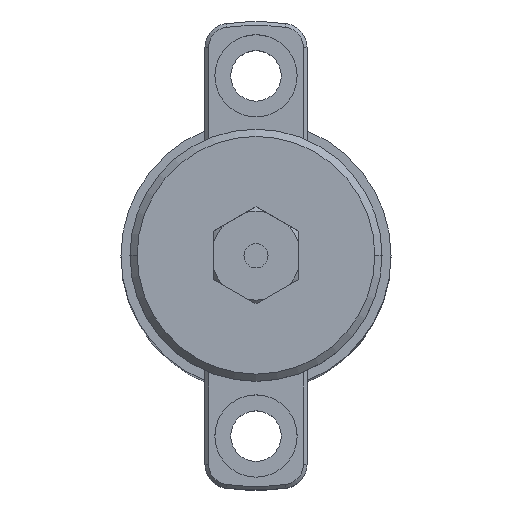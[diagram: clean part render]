
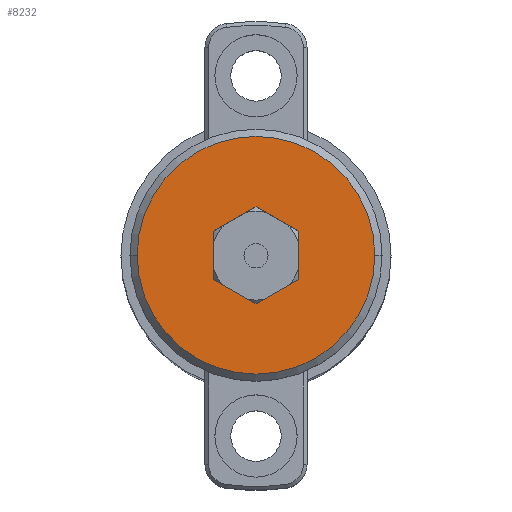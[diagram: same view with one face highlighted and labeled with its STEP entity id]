
A CAD part, top view. The second image highlights one B-rep face of the part: STEP entity #8232.
In plain terms, the highlighted planar face has unit normal (0, 0, 1).
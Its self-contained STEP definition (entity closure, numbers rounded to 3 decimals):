
#186 = DIRECTION ( 'NONE',  ( 1., 0., 0. ) ) ;
#319 = CARTESIAN_POINT ( 'NONE',  ( -7., 4.041, 0. ) ) ;
#331 = CARTESIAN_POINT ( 'NONE',  ( -7., -4.041, 0. ) ) ;
#422 = AXIS2_PLACEMENT_3D ( 'NONE', #14855, #7517, #186 ) ;
#543 = VECTOR ( 'NONE', #7697, 1000. ) ;
#816 = DIRECTION ( 'NONE',  ( 0.866, -0.5, 0. ) ) ;
#894 = ORIENTED_EDGE ( 'NONE', *, *, #8617, .F. ) ;
#948 = VERTEX_POINT ( 'NONE', #14293 ) ;
#1150 = AXIS2_PLACEMENT_3D ( 'NONE', #1497, #10088, #2714 ) ;
#1197 = CARTESIAN_POINT ( 'NONE',  ( 0., 8.083, 0. ) ) ;
#1497 = CARTESIAN_POINT ( 'NONE',  ( 0., 0., 0. ) ) ;
#1517 = VERTEX_POINT ( 'NONE', #15447 ) ;
#1531 = DIRECTION ( 'NONE',  ( 0., -1., 0. ) ) ;
#1757 = VECTOR ( 'NONE', #3609, 1000. ) ;
#2142 = DIRECTION ( 'NONE',  ( -1., 0., 0. ) ) ;
#2345 = DIRECTION ( 'NONE',  ( 0.866, 0.5, 0. ) ) ;
#2494 = EDGE_CURVE ( 'NONE', #2709, #5618, #11169, .T. ) ;
#2613 = EDGE_CURVE ( 'NONE', #4873, #8623, #13665, .T. ) ;
#2709 = VERTEX_POINT ( 'NONE', #13808 ) ;
#2714 = DIRECTION ( 'NONE',  ( 1., 0., 0. ) ) ;
#3179 = ORIENTED_EDGE ( 'NONE', *, *, #3445, .F. ) ;
#3316 = CARTESIAN_POINT ( 'NONE',  ( -19.8, 0., 0. ) ) ;
#3445 = EDGE_CURVE ( 'NONE', #9259, #948, #12086, .T. ) ;
#3609 = DIRECTION ( 'NONE',  ( -0.866, -0.5, 0. ) ) ;
#3768 = CARTESIAN_POINT ( 'NONE',  ( 7., -4.041, 0. ) ) ;
#3868 = VECTOR ( 'NONE', #11230, 1000. ) ;
#4251 = VERTEX_POINT ( 'NONE', #3316 ) ;
#4772 = ORIENTED_EDGE ( 'NONE', *, *, #11653, .T. ) ;
#4873 = VERTEX_POINT ( 'NONE', #3768 ) ;
#5578 = FACE_BOUND ( 'NONE', #8995, .T. ) ;
#5618 = VERTEX_POINT ( 'NONE', #12217 ) ;
#5720 = CARTESIAN_POINT ( 'NONE',  ( -7., -4.041, 0. ) ) ;
#5764 = LINE ( 'NONE', #9717, #8650 ) ;
#7073 = CARTESIAN_POINT ( 'NONE',  ( 0., 19.8, 0. ) ) ;
#7083 = LINE ( 'NONE', #11339, #543 ) ;
#7208 = ORIENTED_EDGE ( 'NONE', *, *, #2494, .F. ) ;
#7517 = DIRECTION ( 'NONE',  ( 0., 0., 1. ) ) ;
#7697 = DIRECTION ( 'NONE',  ( -0.866, 0.5, 0. ) ) ;
#7784 = EDGE_CURVE ( 'NONE', #5618, #9259, #13445, .T. ) ;
#7996 = CIRCLE ( 'NONE', #422, 19.8 ) ;
#8232 = ADVANCED_FACE ( 'NONE', ( #5578, #12073 ), #15623, .F. ) ;
#8527 = CIRCLE ( 'NONE', #1150, 19.8 ) ;
#8617 = EDGE_CURVE ( 'NONE', #948, #4873, #5764, .T. ) ;
#8623 = VERTEX_POINT ( 'NONE', #15862 ) ;
#8650 = VECTOR ( 'NONE', #2345, 1000. ) ;
#8995 = EDGE_LOOP ( 'NONE', ( #7208, #9121, #10460, #894, #3179, #11076 ) ) ;
#9121 = ORIENTED_EDGE ( 'NONE', *, *, #10126, .F. ) ;
#9259 = VERTEX_POINT ( 'NONE', #331 ) ;
#9528 = DIRECTION ( 'NONE',  ( 0., 0., -1. ) ) ;
#9717 = CARTESIAN_POINT ( 'NONE',  ( 0., -8.083, 0. ) ) ;
#10088 = DIRECTION ( 'NONE',  ( 0., 0., 1. ) ) ;
#10126 = EDGE_CURVE ( 'NONE', #8623, #2709, #7083, .T. ) ;
#10460 = ORIENTED_EDGE ( 'NONE', *, *, #2613, .F. ) ;
#11076 = ORIENTED_EDGE ( 'NONE', *, *, #7784, .F. ) ;
#11169 = LINE ( 'NONE', #1197, #1757 ) ;
#11230 = DIRECTION ( 'NONE',  ( 0., 1., 0. ) ) ;
#11339 = CARTESIAN_POINT ( 'NONE',  ( 7., 4.041, 0. ) ) ;
#11653 = EDGE_CURVE ( 'NONE', #4251, #1517, #7996, .T. ) ;
#12073 = FACE_OUTER_BOUND ( 'NONE', #15155, .T. ) ;
#12086 = LINE ( 'NONE', #5720, #14990 ) ;
#12217 = CARTESIAN_POINT ( 'NONE',  ( -7., 4.041, 0. ) ) ;
#12392 = CARTESIAN_POINT ( 'NONE',  ( 7., -4.041, 0. ) ) ;
#12637 = AXIS2_PLACEMENT_3D ( 'NONE', #7073, #9528, #2142 ) ;
#13064 = VECTOR ( 'NONE', #1531, 1000. ) ;
#13197 = ORIENTED_EDGE ( 'NONE', *, *, #15090, .T. ) ;
#13445 = LINE ( 'NONE', #319, #13064 ) ;
#13665 = LINE ( 'NONE', #12392, #3868 ) ;
#13808 = CARTESIAN_POINT ( 'NONE',  ( 0., 8.083, 0. ) ) ;
#14293 = CARTESIAN_POINT ( 'NONE',  ( 0., -8.083, 0. ) ) ;
#14855 = CARTESIAN_POINT ( 'NONE',  ( 0., 0., 0. ) ) ;
#14990 = VECTOR ( 'NONE', #816, 1000. ) ;
#15090 = EDGE_CURVE ( 'NONE', #1517, #4251, #8527, .T. ) ;
#15155 = EDGE_LOOP ( 'NONE', ( #4772, #13197 ) ) ;
#15447 = CARTESIAN_POINT ( 'NONE',  ( 19.8, 0., 0. ) ) ;
#15623 = PLANE ( 'NONE',  #12637 ) ;
#15862 = CARTESIAN_POINT ( 'NONE',  ( 7., 4.041, 0. ) ) ;
